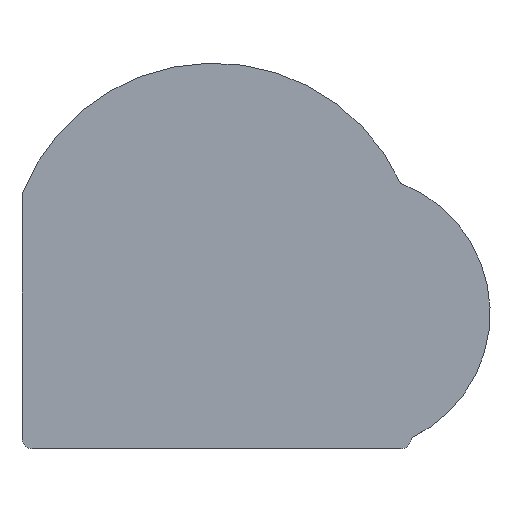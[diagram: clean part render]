
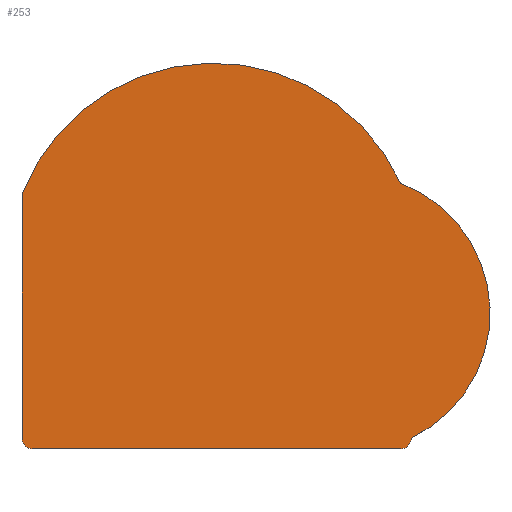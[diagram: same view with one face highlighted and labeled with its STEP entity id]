
A CAD part, top view. The second image highlights one B-rep face of the part: STEP entity #253.
In plain terms, the highlighted planar face has unit normal (0, 0, 1).
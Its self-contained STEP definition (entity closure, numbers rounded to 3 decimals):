
#52 = VERTEX_POINT('',#53);
#53 = CARTESIAN_POINT('',(110.685,0.025,2.545));
#59 = EDGE_CURVE('',#52,#60,#62,.T.);
#60 = VERTEX_POINT('',#61);
#61 = CARTESIAN_POINT('',(6.685,0.025,2.545));
#62 = LINE('',#63,#64);
#63 = CARTESIAN_POINT('',(110.685,0.025,2.545));
#64 = VECTOR('',#65,1.);
#65 = DIRECTION('',(-1.,0.,0.));
#90 = EDGE_CURVE('',#60,#91,#93,.T.);
#91 = VERTEX_POINT('',#92);
#92 = CARTESIAN_POINT('',(3.685,3.025,2.545));
#93 = CIRCLE('',#94,3.001);
#94 = AXIS2_PLACEMENT_3D('',#95,#96,#97);
#95 = CARTESIAN_POINT('',(6.686,3.026,2.545));
#96 = DIRECTION('',(0.,0.,-1.));
#97 = DIRECTION('',(0.,-1.,-0.));
#123 = EDGE_CURVE('',#91,#124,#126,.T.);
#124 = VERTEX_POINT('',#125);
#125 = CARTESIAN_POINT('',(3.685,72.025,2.545));
#126 = LINE('',#127,#128);
#127 = CARTESIAN_POINT('',(3.685,3.025,2.545));
#128 = VECTOR('',#129,1.);
#129 = DIRECTION('',(0.,1.,0.));
#154 = EDGE_CURVE('',#124,#155,#157,.T.);
#155 = VERTEX_POINT('',#156);
#156 = CARTESIAN_POINT('',(110.685,75.025,2.545));
#157 = CIRCLE('',#158,58.137);
#158 = AXIS2_PLACEMENT_3D('',#159,#160,#161);
#159 = CARTESIAN_POINT('',(57.821,50.832,2.545));
#160 = DIRECTION('',(0.,0.,-1.));
#161 = DIRECTION('',(-0.931,0.365,0.));
#187 = EDGE_CURVE('',#155,#188,#190,.T.);
#188 = VERTEX_POINT('',#189);
#189 = CARTESIAN_POINT('',(113.685,3.025,2.545));
#190 = CIRCLE('',#191,39.207);
#191 = AXIS2_PLACEMENT_3D('',#192,#193,#194);
#192 = CARTESIAN_POINT('',(96.742,38.382,2.545));
#193 = DIRECTION('',(0.,0.,-1.));
#194 = DIRECTION('',(0.356,0.935,0.));
#220 = EDGE_CURVE('',#188,#52,#221,.T.);
#221 = CIRCLE('',#222,3.001);
#222 = AXIS2_PLACEMENT_3D('',#223,#224,#225);
#223 = CARTESIAN_POINT('',(110.684,3.026,2.545));
#224 = DIRECTION('',(0.,0.,-1.));
#225 = DIRECTION('',(1.,0.,0.));
#253 = ADVANCED_FACE('',(#254),#262,.F.);
#254 = FACE_BOUND('',#255,.F.);
#255 = EDGE_LOOP('',(#256,#257,#258,#259,#260,#261));
#256 = ORIENTED_EDGE('',*,*,#59,.T.);
#257 = ORIENTED_EDGE('',*,*,#90,.T.);
#258 = ORIENTED_EDGE('',*,*,#123,.T.);
#259 = ORIENTED_EDGE('',*,*,#154,.T.);
#260 = ORIENTED_EDGE('',*,*,#187,.T.);
#261 = ORIENTED_EDGE('',*,*,#220,.T.);
#262 = PLANE('',#263);
#263 = AXIS2_PLACEMENT_3D('',#264,#265,#266);
#264 = CARTESIAN_POINT('',(63.47,46.1,2.545));
#265 = DIRECTION('',(-0.,-0.,-1.));
#266 = DIRECTION('',(-1.,0.,0.));
